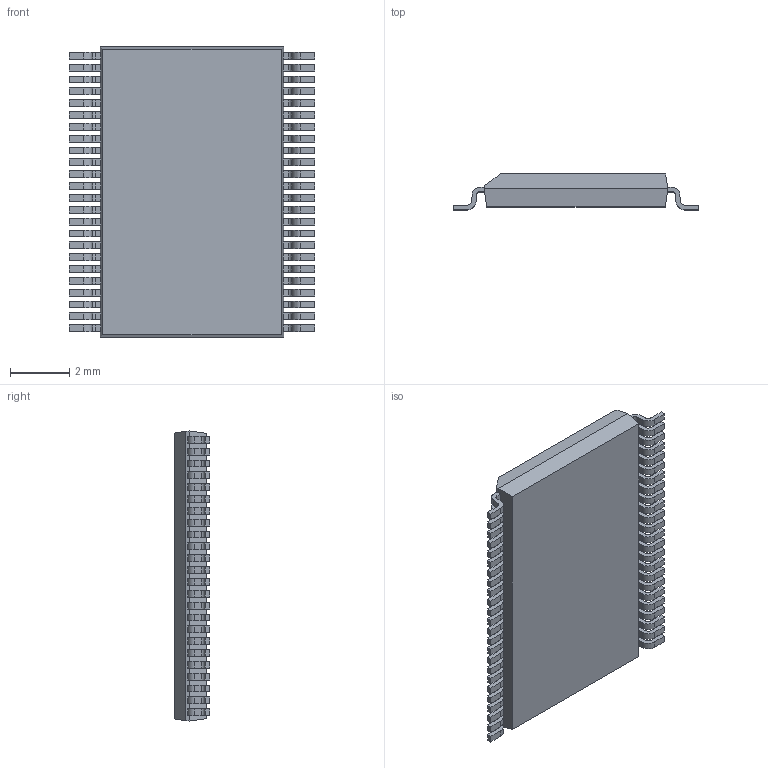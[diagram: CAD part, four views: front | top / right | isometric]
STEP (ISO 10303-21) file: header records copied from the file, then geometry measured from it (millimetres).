
FILE_DESCRIPTION (( 'STEP AP214' ), '1' );
FILE_NAME ('TSSOP40P810X120-48_MO-153.FB.STEP', '2014-10-29T08:25:07', ( 'Tester2' ), ( '' ), 'SwSTEP 2.0', 'SolidWorks 2012', '' );
FILE_SCHEMA (( 'AUTOMOTIVE_DESIGN' ));
Length unit declared in the file: millimetre
Products named in the file (1): TSSOP40P810X120-48_MO-153.FB
Bounding box: 8.3 x 1.2 x 9.8 mm (x, y, z)
Volume: 67 mm3; surface area: 203.2 mm2
Topology: 1 solids, 1 shells, 638 faces, 1901 edges, 1266 vertices
Faces by surface type: plane 444, cylinder 194
Entity records: 28272 total; most frequent: CARTESIAN_POINT 3806, ORIENTED_EDGE 3802, DIRECTION 3567, EDGE_CURVE 1901, VECTOR 1513, LINE 1513, VERTEX_POINT 1266, AXIS2_PLACEMENT_3D 1027
